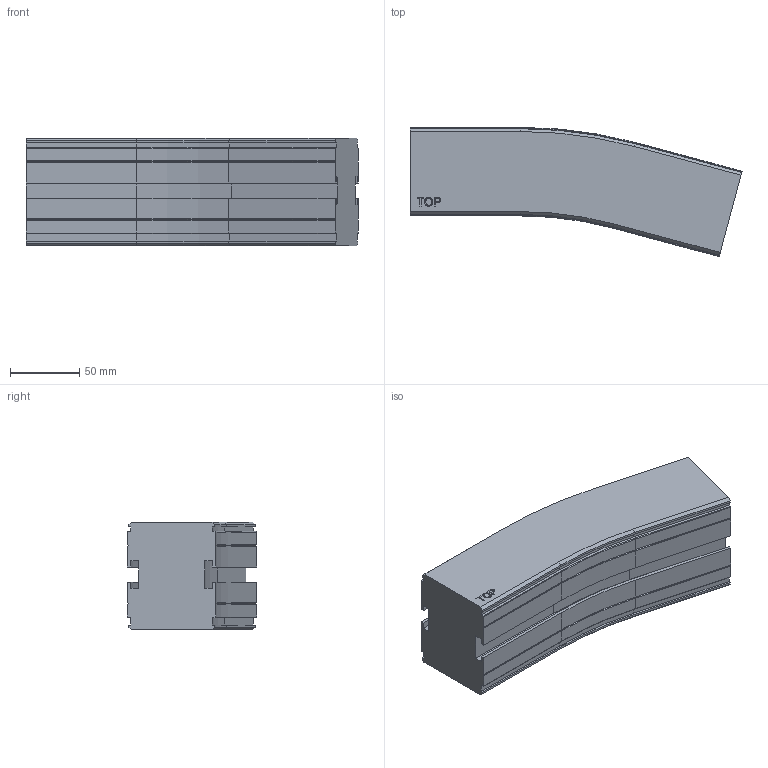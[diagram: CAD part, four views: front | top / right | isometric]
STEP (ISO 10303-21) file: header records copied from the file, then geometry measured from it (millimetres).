
FILE_DESCRIPTION((''),'2;1');
FILE_NAME('C:\Vault Klient\Projekt\Koncept konstruktion\Serie 620 Balk\620-5180.stp','2009-11-26T14:47:49',('Mathias'),(''),'Autodesk Inventor 2010','Autodesk Inventor 2010','');
FILE_SCHEMA(('AUTOMOTIVE_DESIGN { 1 0 10303 214 1 1 1 1 }'));
Length unit declared in the file: millimetre
Products named in the file (1): 620-5180
Bounding box: 240.35 x 93.46 x 78 mm (x, y, z)
Volume: 1095918.8 mm3; surface area: 94267.7 mm2
Topology: 1 solids, 1 shells, 169 faces, 446 edges, 284 vertices
Faces by surface type: plane 109, cylinder 30, bspline 14, cone 12, torus 4
Entity records: 5295 total; most frequent: CARTESIAN_POINT 1094, ORIENTED_EDGE 892, DIRECTION 802, EDGE_CURVE 446, VECTOR 346, LINE 346, VERTEX_POINT 284, AXIS2_PLACEMENT_3D 228
